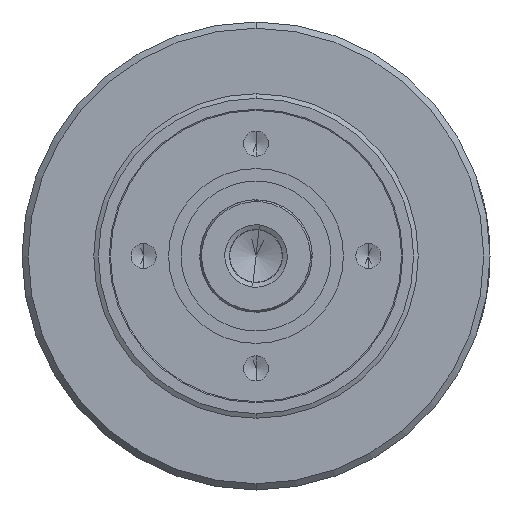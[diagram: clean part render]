
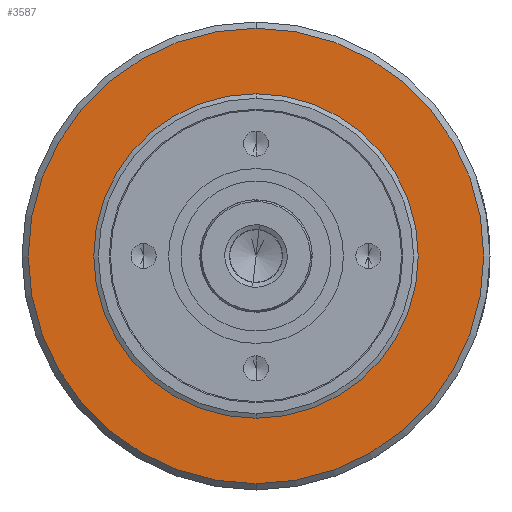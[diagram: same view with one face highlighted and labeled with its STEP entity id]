
A CAD part, front view. The second image highlights one B-rep face of the part: STEP entity #3587.
In plain terms, the highlighted planar face has unit normal (0, -1, 0).
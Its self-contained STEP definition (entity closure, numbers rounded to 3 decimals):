
#178 = CIRCLE ( 'NONE', #3759, 25.65 ) ;
#253 = CARTESIAN_POINT ( 'NONE',  ( 0., 73., 36.5 ) ) ;
#267 = ORIENTED_EDGE ( 'NONE', *, *, #1983, .T. ) ;
#420 = CARTESIAN_POINT ( 'NONE',  ( 36.5, 73., 0. ) ) ;
#463 = EDGE_LOOP ( 'NONE', ( #2229, #1137 ) ) ;
#491 = VERTEX_POINT ( 'NONE', #3634 ) ;
#501 = CARTESIAN_POINT ( 'NONE',  ( 0., 73., -25.65 ) ) ;
#767 = EDGE_CURVE ( 'NONE', #2566, #2312, #2096, .T. ) ;
#894 = EDGE_LOOP ( 'NONE', ( #2556, #267 ) ) ;
#923 = FACE_BOUND ( 'NONE', #463, .T. ) ;
#970 = CARTESIAN_POINT ( 'NONE',  ( 0., 73., 25.65 ) ) ;
#1020 = CARTESIAN_POINT ( 'NONE',  ( 0., 73., 0. ) ) ;
#1038 = DIRECTION ( 'NONE',  ( 0., 0., -1. ) ) ;
#1039 = AXIS2_PLACEMENT_3D ( 'NONE', #1020, #1953, #1038 ) ;
#1046 = DIRECTION ( 'NONE',  ( 0., 0., -1. ) ) ;
#1137 = ORIENTED_EDGE ( 'NONE', *, *, #767, .T. ) ;
#1298 = DIRECTION ( 'NONE',  ( 0., -1., 0. ) ) ;
#1594 = CIRCLE ( 'NONE', #1891, 36.5 ) ;
#1605 = DIRECTION ( 'NONE',  ( 0., 0., -1. ) ) ;
#1817 = VERTEX_POINT ( 'NONE', #253 ) ;
#1891 = AXIS2_PLACEMENT_3D ( 'NONE', #3145, #3169, #1605 ) ;
#1953 = DIRECTION ( 'NONE',  ( 0., 1., 0. ) ) ;
#1983 = EDGE_CURVE ( 'NONE', #491, #1817, #2910, .T. ) ;
#2060 = EDGE_CURVE ( 'NONE', #1817, #491, #1594, .T. ) ;
#2096 = CIRCLE ( 'NONE', #1039, 25.65 ) ;
#2225 = EDGE_CURVE ( 'NONE', #2312, #2566, #178, .T. ) ;
#2229 = ORIENTED_EDGE ( 'NONE', *, *, #2225, .T. ) ;
#2239 = PLANE ( 'NONE',  #3875 ) ;
#2262 = DIRECTION ( 'NONE',  ( 0., -1., 0. ) ) ;
#2312 = VERTEX_POINT ( 'NONE', #501 ) ;
#2556 = ORIENTED_EDGE ( 'NONE', *, *, #2060, .T. ) ;
#2566 = VERTEX_POINT ( 'NONE', #970 ) ;
#2569 = DIRECTION ( 'NONE',  ( 0., 0., -1. ) ) ;
#2737 = AXIS2_PLACEMENT_3D ( 'NONE', #3762, #1298, #1046 ) ;
#2910 = CIRCLE ( 'NONE', #2737, 36.5 ) ;
#2984 = CARTESIAN_POINT ( 'NONE',  ( 0., 73., 0. ) ) ;
#3145 = CARTESIAN_POINT ( 'NONE',  ( 0., 73., 0. ) ) ;
#3169 = DIRECTION ( 'NONE',  ( 0., -1., 0. ) ) ;
#3256 = DIRECTION ( 'NONE',  ( 0., 0., -1. ) ) ;
#3307 = DIRECTION ( 'NONE',  ( 0., 1., 0. ) ) ;
#3587 = ADVANCED_FACE ( 'NONE', ( #923, #3854 ), #2239, .T. ) ;
#3634 = CARTESIAN_POINT ( 'NONE',  ( 0., 73., -36.5 ) ) ;
#3759 = AXIS2_PLACEMENT_3D ( 'NONE', #2984, #3307, #3256 ) ;
#3762 = CARTESIAN_POINT ( 'NONE',  ( 0., 73., 0. ) ) ;
#3854 = FACE_OUTER_BOUND ( 'NONE', #894, .T. ) ;
#3875 = AXIS2_PLACEMENT_3D ( 'NONE', #420, #2262, #2569 ) ;
